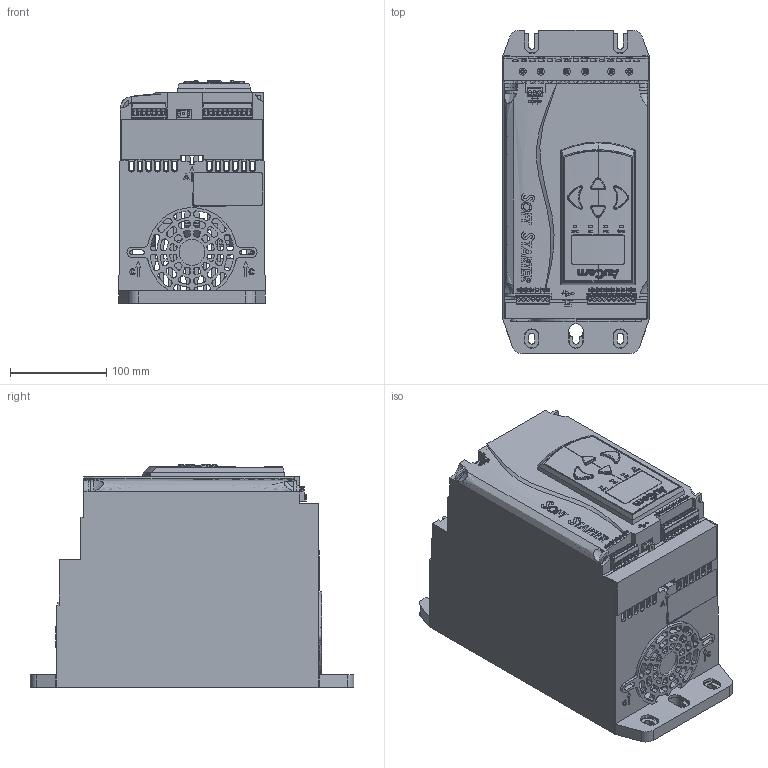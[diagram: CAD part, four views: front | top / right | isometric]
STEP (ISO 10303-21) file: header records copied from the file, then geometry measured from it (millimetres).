
FILE_DESCRIPTION (( 'STEP AP214' ), '1' );
FILE_NAME ('F1-F 3-Phase.STEP', '2015-09-24T21:38:16', ( '' ), ( '' ), 'SwSTEP 2.0', 'SolidWorks 2014', '' );
FILE_SCHEMA (( 'AUTOMOTIVE_DESIGN' ));
Length unit declared in the file: millimetre
Products named in the file (24): 999-17223-00_1; 635-16299-00_1; 991-17403-00_1; q_1; 360-15142-00_No leads_1; NA3337F10B5-351b_1; 621-14907-00_1; 991-17217-00_1; 621-14906-00_1; 300-07407-00_1; 624-04683-00_Open_1; 300-07410-00_1; 624-02288-00_1; 300-07409-00_1; ad11_1_1; 633-17037-00_1; 999-17232-00_1; F1-F 3-Phase; Name plate sticker small - 635-04681-00_1; Electrical schematic label small - 635-04681-00_1; 633-15475-00_1; 633-16067-00_1; fff_1; f1 en31
Assembly tree (32 placements, depth 4):
  F1-F 3-Phase
    991-17403-00_1
      ad11_1_1
      624-04683-00_Open_1  x6
        624-02288-00_1
      621-14906-00_1  x3
      621-14907-00_1  x3
      360-15142-00_No leads_1
        NA3337F10B5-351b_1
      q_1
    999-17223-00_1
      635-16299-00_1
    999-17232-00_1
      633-16067-00_1
        f1 en31
        fff_1
      633-15475-00_1
      Electrical schematic label small - 635-04681-00_1
      Name plate sticker small - 635-04681-00_1
    991-17217-00_1
      633-17037-00_1
      300-07409-00_1
      300-07410-00_1
      300-07407-00_1
Bounding box: 152.32 x 336.23 x 231.48 mm (x, y, z)
Volume: 1193541.6 mm3; surface area: 649676 mm2
Topology: 28 solids, 32 shells, 3933 faces, 11052 edges, 7257 vertices
Faces by surface type: plane 2456, cylinder 801, bspline 605, cone 71
Entity records: 209636 total; most frequent: CARTESIAN_POINT 77532, ORIENTED_EDGE 20808, DIRECTION 15550, EDGE_CURVE 10404, VERTEX_POINT 6825, LINE 6494, VECTOR 6494, AXIS2_PLACEMENT_3D 4528
